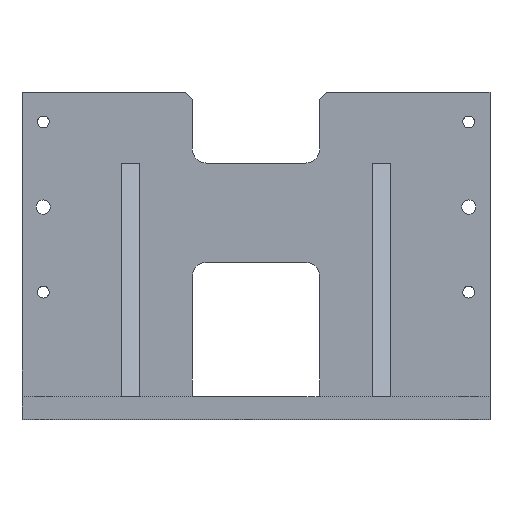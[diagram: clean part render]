
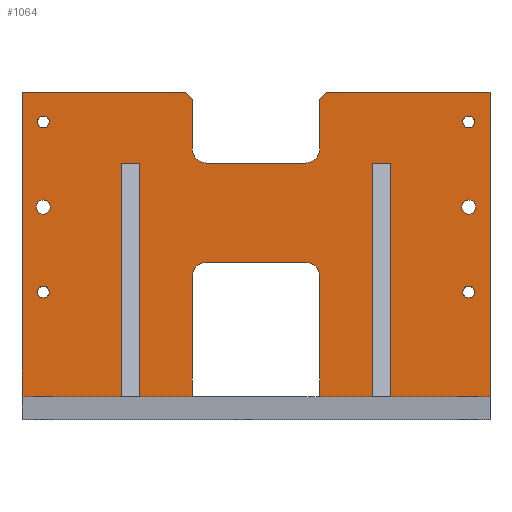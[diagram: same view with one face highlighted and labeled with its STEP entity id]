
A CAD part, top view. The second image highlights one B-rep face of the part: STEP entity #1064.
In plain terms, the highlighted planar face has unit normal (0, 0, 1).
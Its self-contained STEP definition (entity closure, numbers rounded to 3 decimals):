
#30=FACE_BOUND($,#174,.T.);
#31=FACE_BOUND($,#175,.T.);
#32=FACE_BOUND($,#176,.T.);
#33=FACE_BOUND($,#177,.T.);
#34=FACE_BOUND($,#178,.T.);
#35=FACE_BOUND($,#179,.T.);
#67=PLANE($,#1147);
#105=FACE_OUTER_BOUND($,#173,.T.);
#173=EDGE_LOOP($,(#858,#859,#860,#861,#862,#863,#864,#865,#866,#867,#868,
#869,#870,#871,#872,#873,#874,#875,#876,#877,#878,#879,#880,#881,#882,#883));
#174=EDGE_LOOP($,(#884));
#175=EDGE_LOOP($,(#885));
#176=EDGE_LOOP($,(#886));
#177=EDGE_LOOP($,(#887));
#178=EDGE_LOOP($,(#888));
#179=EDGE_LOOP($,(#889));
#225=LINE($,#1484,#327);
#235=LINE($,#1508,#337);
#242=LINE($,#1525,#344);
#244=LINE($,#1529,#346);
#248=LINE($,#1537,#350);
#252=LINE($,#1545,#354);
#256=LINE($,#1552,#358);
#277=LINE($,#1620,#379);
#283=LINE($,#1631,#385);
#292=LINE($,#1665,#394);
#294=LINE($,#1669,#396);
#298=LINE($,#1680,#400);
#299=LINE($,#1683,#401);
#300=LINE($,#1685,#402);
#301=LINE($,#1686,#403);
#302=LINE($,#1688,#404);
#303=LINE($,#1689,#405);
#304=LINE($,#1691,#406);
#305=LINE($,#1692,#407);
#306=LINE($,#1694,#408);
#307=LINE($,#1696,#409);
#308=LINE($,#1697,#410);
#327=VECTOR($,#1205,70.);
#337=VECTOR($,#1223,85.);
#344=VECTOR($,#1238,85.);
#346=VECTOR($,#1242,37.3);
#350=VECTOR($,#1246,70.);
#354=VECTOR($,#1250,70.);
#358=VECTOR($,#1254,37.3);
#379=VECTOR($,#1317,7.071);
#385=VECTOR($,#1325,35.);
#394=VECTOR($,#1354,7.071);
#396=VECTOR($,#1358,35.);
#400=VECTOR($,#1372,70.);
#401=VECTOR($,#1375,165.);
#402=VECTOR($,#1376,12.7);
#403=VECTOR($,#1377,165.);
#404=VECTOR($,#1378,215.);
#405=VECTOR($,#1379,115.);
#406=VECTOR($,#1380,115.);
#407=VECTOR($,#1381,215.);
#408=VECTOR($,#1382,165.);
#409=VECTOR($,#1383,12.7);
#410=VECTOR($,#1384,165.);
#423=CIRCLE($,#1098,10.);
#425=CIRCLE($,#1102,10.);
#448=CIRCLE($,#1143,10.);
#449=CIRCLE($,#1145,10.);
#450=CIRCLE($,#1148,5.);
#451=CIRCLE($,#1149,5.);
#452=CIRCLE($,#1150,4.188);
#453=CIRCLE($,#1151,4.188);
#454=CIRCLE($,#1152,4.188);
#455=CIRCLE($,#1153,4.188);
#464=VERTEX_POINT($,#1474);
#465=VERTEX_POINT($,#1476);
#467=VERTEX_POINT($,#1482);
#469=VERTEX_POINT($,#1488);
#477=VERTEX_POINT($,#1506);
#483=VERTEX_POINT($,#1524);
#484=VERTEX_POINT($,#1528);
#487=VERTEX_POINT($,#1534);
#488=VERTEX_POINT($,#1536);
#491=VERTEX_POINT($,#1542);
#492=VERTEX_POINT($,#1544);
#495=VERTEX_POINT($,#1550);
#520=VERTEX_POINT($,#1618);
#521=VERTEX_POINT($,#1619);
#525=VERTEX_POINT($,#1629);
#539=VERTEX_POINT($,#1662);
#540=VERTEX_POINT($,#1664);
#541=VERTEX_POINT($,#1668);
#542=VERTEX_POINT($,#1672);
#543=VERTEX_POINT($,#1676);
#544=VERTEX_POINT($,#1682);
#545=VERTEX_POINT($,#1684);
#546=VERTEX_POINT($,#1687);
#547=VERTEX_POINT($,#1690);
#548=VERTEX_POINT($,#1693);
#549=VERTEX_POINT($,#1695);
#550=VERTEX_POINT($,#1698);
#551=VERTEX_POINT($,#1700);
#552=VERTEX_POINT($,#1702);
#553=VERTEX_POINT($,#1704);
#554=VERTEX_POINT($,#1706);
#555=VERTEX_POINT($,#1708);
#565=EDGE_CURVE($,#464,#465,#423,.T.);
#569=EDGE_CURVE($,#464,#467,#225,.T.);
#572=EDGE_CURVE($,#469,#467,#425,.T.);
#581=EDGE_CURVE($,#469,#477,#235,.T.);
#590=EDGE_CURVE($,#483,#465,#242,.T.);
#592=EDGE_CURVE($,#484,#483,#244,.T.);
#596=EDGE_CURVE($,#488,#487,#248,.T.);
#600=EDGE_CURVE($,#492,#491,#252,.T.);
#604=EDGE_CURVE($,#477,#495,#256,.T.);
#637=EDGE_CURVE($,#520,#521,#277,.T.);
#643=EDGE_CURVE($,#520,#525,#283,.T.);
#660=EDGE_CURVE($,#539,#540,#292,.T.);
#662=EDGE_CURVE($,#541,#540,#294,.T.);
#664=EDGE_CURVE($,#542,#525,#448,.T.);
#666=EDGE_CURVE($,#541,#543,#449,.T.);
#668=EDGE_CURVE($,#542,#543,#298,.T.);
#669=EDGE_CURVE($,#495,#544,#299,.T.);
#670=EDGE_CURVE($,#544,#545,#300,.T.);
#671=EDGE_CURVE($,#545,#492,#301,.T.);
#672=EDGE_CURVE($,#491,#546,#302,.T.);
#673=EDGE_CURVE($,#546,#521,#303,.T.);
#674=EDGE_CURVE($,#539,#547,#304,.T.);
#675=EDGE_CURVE($,#547,#488,#305,.T.);
#676=EDGE_CURVE($,#487,#548,#306,.T.);
#677=EDGE_CURVE($,#548,#549,#307,.T.);
#678=EDGE_CURVE($,#549,#484,#308,.T.);
#679=EDGE_CURVE($,#550,#550,#450,.T.);
#680=EDGE_CURVE($,#551,#551,#451,.T.);
#681=EDGE_CURVE($,#552,#552,#452,.T.);
#682=EDGE_CURVE($,#553,#553,#453,.T.);
#683=EDGE_CURVE($,#554,#554,#454,.T.);
#684=EDGE_CURVE($,#555,#555,#455,.T.);
#858=ORIENTED_EDGE($,*,*,#581,.T.);
#859=ORIENTED_EDGE($,*,*,#604,.T.);
#860=ORIENTED_EDGE($,*,*,#669,.T.);
#861=ORIENTED_EDGE($,*,*,#670,.T.);
#862=ORIENTED_EDGE($,*,*,#671,.T.);
#863=ORIENTED_EDGE($,*,*,#600,.T.);
#864=ORIENTED_EDGE($,*,*,#672,.T.);
#865=ORIENTED_EDGE($,*,*,#673,.T.);
#866=ORIENTED_EDGE($,*,*,#637,.F.);
#867=ORIENTED_EDGE($,*,*,#643,.T.);
#868=ORIENTED_EDGE($,*,*,#664,.F.);
#869=ORIENTED_EDGE($,*,*,#668,.T.);
#870=ORIENTED_EDGE($,*,*,#666,.F.);
#871=ORIENTED_EDGE($,*,*,#662,.T.);
#872=ORIENTED_EDGE($,*,*,#660,.F.);
#873=ORIENTED_EDGE($,*,*,#674,.T.);
#874=ORIENTED_EDGE($,*,*,#675,.T.);
#875=ORIENTED_EDGE($,*,*,#596,.T.);
#876=ORIENTED_EDGE($,*,*,#676,.T.);
#877=ORIENTED_EDGE($,*,*,#677,.T.);
#878=ORIENTED_EDGE($,*,*,#678,.T.);
#879=ORIENTED_EDGE($,*,*,#592,.T.);
#880=ORIENTED_EDGE($,*,*,#590,.T.);
#881=ORIENTED_EDGE($,*,*,#565,.F.);
#882=ORIENTED_EDGE($,*,*,#569,.T.);
#883=ORIENTED_EDGE($,*,*,#572,.F.);
#884=ORIENTED_EDGE($,*,*,#679,.T.);
#885=ORIENTED_EDGE($,*,*,#680,.T.);
#886=ORIENTED_EDGE($,*,*,#681,.T.);
#887=ORIENTED_EDGE($,*,*,#682,.T.);
#888=ORIENTED_EDGE($,*,*,#683,.T.);
#889=ORIENTED_EDGE($,*,*,#684,.T.);
#1064=ADVANCED_FACE($,(#105,#30,#31,#32,#33,#34,#35),#67,.T.);
#1098=AXIS2_PLACEMENT_3D($,#1477,#1198,#1199);
#1102=AXIS2_PLACEMENT_3D($,#1490,#1211,#1212);
#1143=AXIS2_PLACEMENT_3D($,#1673,#1362,#1363);
#1145=AXIS2_PLACEMENT_3D($,#1677,#1367,#1368);
#1147=AXIS2_PLACEMENT_3D($,#1681,#1373,#1374);
#1148=AXIS2_PLACEMENT_3D($,#1699,#1385,#1386);
#1149=AXIS2_PLACEMENT_3D($,#1701,#1387,#1388);
#1150=AXIS2_PLACEMENT_3D($,#1703,#1389,#1390);
#1151=AXIS2_PLACEMENT_3D($,#1705,#1391,#1392);
#1152=AXIS2_PLACEMENT_3D($,#1707,#1393,#1394);
#1153=AXIS2_PLACEMENT_3D($,#1709,#1395,#1396);
#1198=DIRECTION('center_axis',(0.,0.,1.));
#1199=DIRECTION('ref_axis',(-0.707,0.707,0.));
#1205=DIRECTION($,(1.,0.,0.));
#1211=DIRECTION('center_axis',(0.,0.,1.));
#1212=DIRECTION('ref_axis',(0.707,0.707,0.));
#1223=DIRECTION($,(0.,-1.,0.));
#1238=DIRECTION($,(0.,1.,0.));
#1242=DIRECTION($,(1.,0.,0.));
#1246=DIRECTION($,(1.,0.,0.));
#1250=DIRECTION($,(1.,0.,0.));
#1254=DIRECTION($,(1.,0.,0.));
#1317=DIRECTION($,(0.707,0.707,0.));
#1325=DIRECTION($,(0.,-1.,0.));
#1354=DIRECTION($,(0.707,-0.707,0.));
#1358=DIRECTION($,(0.,1.,0.));
#1362=DIRECTION('center_axis',(0.,0.,1.));
#1363=DIRECTION('ref_axis',(0.707,-0.707,0.));
#1367=DIRECTION('center_axis',(0.,0.,1.));
#1368=DIRECTION('ref_axis',(-0.707,-0.707,0.));
#1372=DIRECTION($,(-1.,0.,0.));
#1373=DIRECTION('center_axis',(0.,0.,1.));
#1374=DIRECTION('ref_axis',(1.,0.,0.));
#1375=DIRECTION($,(0.,1.,0.));
#1376=DIRECTION($,(1.,0.,0.));
#1377=DIRECTION($,(0.,-1.,0.));
#1378=DIRECTION($,(0.,1.,0.));
#1379=DIRECTION($,(-1.,0.,0.));
#1380=DIRECTION($,(-1.,0.,0.));
#1381=DIRECTION($,(0.,-1.,0.));
#1382=DIRECTION($,(0.,1.,0.));
#1383=DIRECTION($,(1.,0.,0.));
#1384=DIRECTION($,(0.,-1.,0.));
#1385=DIRECTION('center_axis',(0.,0.,-1.));
#1386=DIRECTION('ref_axis',(-1.,0.,0.));
#1387=DIRECTION('center_axis',(0.,0.,-1.));
#1388=DIRECTION('ref_axis',(-1.,0.,0.));
#1389=DIRECTION('center_axis',(0.,0.,-1.));
#1390=DIRECTION('ref_axis',(-1.,0.,0.));
#1391=DIRECTION('center_axis',(0.,0.,-1.));
#1392=DIRECTION('ref_axis',(-1.,0.,0.));
#1393=DIRECTION('center_axis',(0.,0.,-1.));
#1394=DIRECTION('ref_axis',(-1.,0.,0.));
#1395=DIRECTION('center_axis',(0.,0.,-1.));
#1396=DIRECTION('ref_axis',(-1.,0.,0.));
#1474=CARTESIAN_POINT('',(-35.,-12.5,19.05));
#1476=CARTESIAN_POINT('',(-45.,-22.5,19.05));
#1477=CARTESIAN_POINT('Origin',(-35.,-22.5,19.05));
#1482=CARTESIAN_POINT('',(35.,-12.5,19.05));
#1484=CARTESIAN_POINT($,(22.5,-12.5,19.05));
#1488=CARTESIAN_POINT('',(45.,-22.5,19.05));
#1490=CARTESIAN_POINT('Origin',(35.,-22.5,19.05));
#1506=CARTESIAN_POINT('',(45.,-107.5,19.05));
#1508=CARTESIAN_POINT($,(45.,-61.75,19.05));
#1524=CARTESIAN_POINT('',(-45.,-107.5,19.05));
#1525=CARTESIAN_POINT($,(-45.,-6.25,19.05));
#1528=CARTESIAN_POINT('',(-82.3,-107.5,19.05));
#1529=CARTESIAN_POINT($,(165.,-107.5,19.05));
#1534=CARTESIAN_POINT('',(-95.,-107.5,19.05));
#1536=CARTESIAN_POINT('',(-165.,-107.5,19.05));
#1537=CARTESIAN_POINT($,(165.,-107.5,19.05));
#1542=CARTESIAN_POINT('',(165.,-107.5,19.05));
#1544=CARTESIAN_POINT('',(95.,-107.5,19.05));
#1545=CARTESIAN_POINT($,(165.,-107.5,19.05));
#1550=CARTESIAN_POINT('',(82.3,-107.5,19.05));
#1552=CARTESIAN_POINT($,(165.,-107.5,19.05));
#1618=CARTESIAN_POINT('',(45.,102.5,19.05));
#1619=CARTESIAN_POINT('',(50.,107.5,19.05));
#1620=CARTESIAN_POINT($,(9.375,66.875,19.05));
#1629=CARTESIAN_POINT('',(45.,67.5,19.05));
#1631=CARTESIAN_POINT($,(45.,53.75,19.05));
#1662=CARTESIAN_POINT('',(-50.,107.5,19.05));
#1664=CARTESIAN_POINT('',(-45.,102.5,19.05));
#1665=CARTESIAN_POINT($,(-9.375,66.875,19.05));
#1668=CARTESIAN_POINT('',(-45.,67.5,19.05));
#1669=CARTESIAN_POINT($,(-45.,28.75,19.05));
#1672=CARTESIAN_POINT('',(35.,57.5,19.05));
#1673=CARTESIAN_POINT('Origin',(35.,67.5,19.05));
#1676=CARTESIAN_POINT('',(-35.,57.5,19.05));
#1677=CARTESIAN_POINT('Origin',(-35.,67.5,19.05));
#1680=CARTESIAN_POINT($,(22.5,57.5,19.05));
#1681=CARTESIAN_POINT('Origin',(0.,0.,
19.05));
#1682=CARTESIAN_POINT('',(82.3,57.5,19.05));
#1683=CARTESIAN_POINT($,(82.3,-22.973,19.05));
#1684=CARTESIAN_POINT('',(95.,57.5,19.05));
#1685=CARTESIAN_POINT($,(47.5,57.5,19.05));
#1686=CARTESIAN_POINT($,(95.,-22.973,19.05));
#1687=CARTESIAN_POINT('',(165.,107.5,19.05));
#1688=CARTESIAN_POINT($,(165.,107.5,19.05));
#1689=CARTESIAN_POINT($,(-165.,107.5,19.05));
#1690=CARTESIAN_POINT('',(-165.,107.5,19.05));
#1691=CARTESIAN_POINT($,(-165.,107.5,19.05));
#1692=CARTESIAN_POINT($,(-165.,-107.5,19.05));
#1693=CARTESIAN_POINT('',(-95.,57.5,19.05));
#1694=CARTESIAN_POINT($,(-95.,-22.973,19.05));
#1695=CARTESIAN_POINT('',(-82.3,57.5,19.05));
#1696=CARTESIAN_POINT($,(-47.5,57.5,19.05));
#1697=CARTESIAN_POINT($,(-82.3,-22.973,19.05));
#1698=CARTESIAN_POINT('',(-145.,26.5,19.05));
#1699=CARTESIAN_POINT('Origin',(-150.,26.5,19.05));
#1700=CARTESIAN_POINT('',(155.,26.5,19.05));
#1701=CARTESIAN_POINT('Origin',(150.,26.5,19.05));
#1702=CARTESIAN_POINT('',(-145.812,-33.5,19.05));
#1703=CARTESIAN_POINT('Origin',(-150.,-33.5,19.05));
#1704=CARTESIAN_POINT('',(154.188,86.5,19.05));
#1705=CARTESIAN_POINT('Origin',(150.,86.5,19.05));
#1706=CARTESIAN_POINT('',(154.188,-33.5,19.05));
#1707=CARTESIAN_POINT('Origin',(150.,-33.5,19.05));
#1708=CARTESIAN_POINT('',(-145.812,86.5,19.05));
#1709=CARTESIAN_POINT('Origin',(-150.,86.5,19.05));
